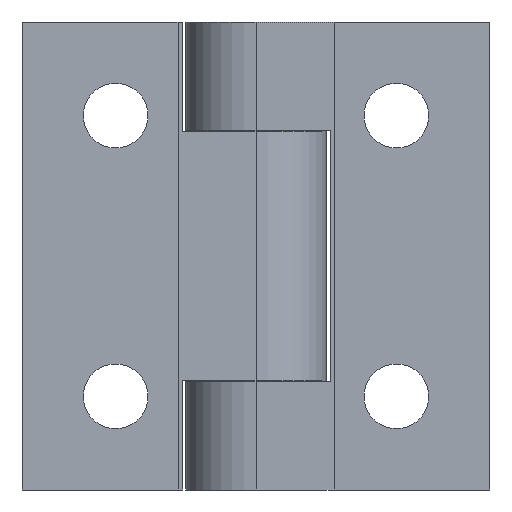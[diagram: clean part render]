
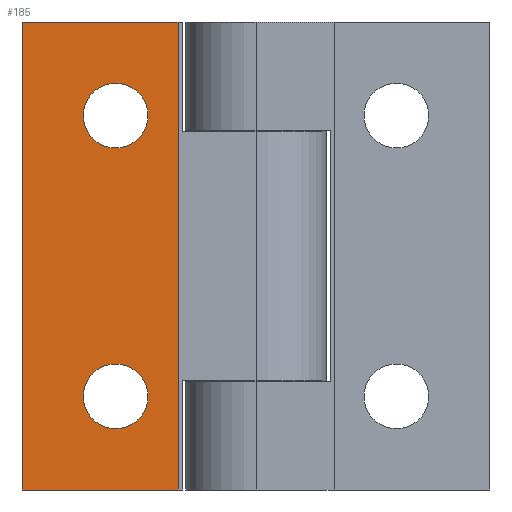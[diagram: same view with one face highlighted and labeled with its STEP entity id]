
A CAD part, front view. The second image highlights one B-rep face of the part: STEP entity #185.
In plain terms, the highlighted planar face has unit normal (0, -1, 0).
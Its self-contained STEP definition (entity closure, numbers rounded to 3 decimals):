
#185 = ADVANCED_FACE( '', ( #328, #329, #330 ), #331, .F. );
#328 = FACE_BOUND( '', #625, .T. );
#329 = FACE_BOUND( '', #626, .T. );
#330 = FACE_OUTER_BOUND( '', #627, .T. );
#331 = PLANE( '', #628 );
#625 = EDGE_LOOP( '', ( #1038 ) );
#626 = EDGE_LOOP( '', ( #1039 ) );
#627 = EDGE_LOOP( '', ( #1040, #1041, #1042, #1043 ) );
#628 = AXIS2_PLACEMENT_3D( '', #1044, #1045, #1046 );
#1038 = ORIENTED_EDGE( '', *, *, #1894, .F. );
#1039 = ORIENTED_EDGE( '', *, *, #1895, .F. );
#1040 = ORIENTED_EDGE( '', *, *, #1866, .T. );
#1041 = ORIENTED_EDGE( '', *, *, #1896, .F. );
#1042 = ORIENTED_EDGE( '', *, *, #1889, .F. );
#1043 = ORIENTED_EDGE( '', *, *, #1897, .T. );
#1044 = CARTESIAN_POINT( '', ( 0., 0., 30. ) );
#1045 = DIRECTION( '', ( 0., 1., 0. ) );
#1046 = DIRECTION( '', ( 0., 0., 1. ) );
#1866 = EDGE_CURVE( '', #2240, #2238, #2241, .T. );
#1889 = EDGE_CURVE( '', #2271, #2273, #2274, .T. );
#1894 = EDGE_CURVE( '', #2280, #2280, #2281, .T. );
#1895 = EDGE_CURVE( '', #2282, #2282, #2283, .T. );
#1896 = EDGE_CURVE( '', #2273, #2238, #2284, .T. );
#1897 = EDGE_CURVE( '', #2271, #2240, #2285, .T. );
#2238 = VERTEX_POINT( '', #2750 );
#2240 = VERTEX_POINT( '', #2753 );
#2241 = LINE( '', #2754, #2755 );
#2271 = VERTEX_POINT( '', #2802 );
#2273 = VERTEX_POINT( '', #2805 );
#2274 = LINE( '', #2806, #2807 );
#2280 = VERTEX_POINT( '', #2817 );
#2281 = CIRCLE( '', #2818, 4.15 );
#2282 = VERTEX_POINT( '', #2819 );
#2283 = CIRCLE( '', #2820, 4.15 );
#2284 = LINE( '', #2821, #2822 );
#2285 = LINE( '', #2823, #2824 );
#2750 = CARTESIAN_POINT( '', ( 20., 0., -30. ) );
#2753 = CARTESIAN_POINT( '', ( 0., 0., -30. ) );
#2754 = CARTESIAN_POINT( '', ( 0., 0., -30. ) );
#2755 = VECTOR( '', #3470, 1000. );
#2802 = CARTESIAN_POINT( '', ( 0., 0., 30. ) );
#2805 = CARTESIAN_POINT( '', ( 20., 0., 30. ) );
#2806 = CARTESIAN_POINT( '', ( 0., 0., 30. ) );
#2807 = VECTOR( '', #3501, 1000. );
#2817 = CARTESIAN_POINT( '', ( 12., 0., -22.15 ) );
#2818 = AXIS2_PLACEMENT_3D( '', #3506, #3507, #3508 );
#2819 = CARTESIAN_POINT( '', ( 12., 0., 13.85 ) );
#2820 = AXIS2_PLACEMENT_3D( '', #3509, #3510, #3511 );
#2821 = CARTESIAN_POINT( '', ( 20., 0., 30. ) );
#2822 = VECTOR( '', #3512, 1000. );
#2823 = CARTESIAN_POINT( '', ( 0., 0., 30. ) );
#2824 = VECTOR( '', #3513, 1000. );
#3470 = DIRECTION( '', ( 1., 0., 0. ) );
#3501 = DIRECTION( '', ( 1., 0., 0. ) );
#3506 = CARTESIAN_POINT( '', ( 12., 0., -18. ) );
#3507 = DIRECTION( '', ( 0., -1., 0. ) );
#3508 = DIRECTION( '', ( 0., 0., -1. ) );
#3509 = CARTESIAN_POINT( '', ( 12., 0., 18. ) );
#3510 = DIRECTION( '', ( 0., -1., 0. ) );
#3511 = DIRECTION( '', ( 0., 0., -1. ) );
#3512 = DIRECTION( '', ( 0., 0., -1. ) );
#3513 = DIRECTION( '', ( 0., 0., -1. ) );
